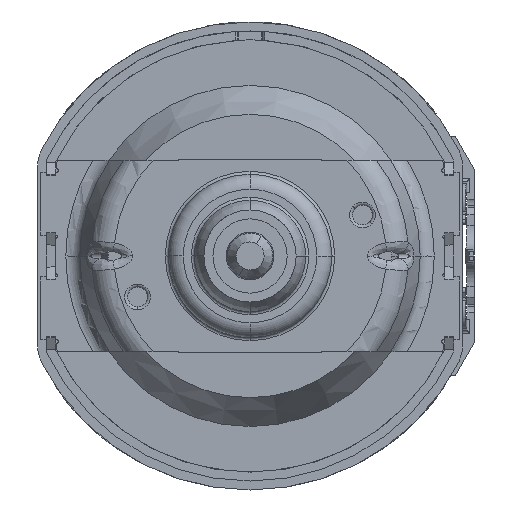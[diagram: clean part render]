
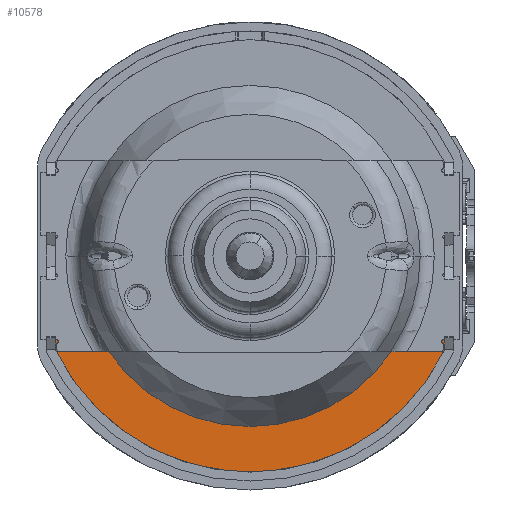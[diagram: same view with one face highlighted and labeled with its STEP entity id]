
A CAD part, front view. The second image highlights one B-rep face of the part: STEP entity #10578.
In plain terms, the highlighted planar face has unit normal (0, -1, 0).
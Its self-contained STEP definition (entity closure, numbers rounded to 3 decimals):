
#9332=AXIS2_PLACEMENT_3D('Circle Axis2P3D',#9330,#9331,$) ;
#9461=AXIS2_PLACEMENT_3D('Plane Axis2P3D',#9458,#9459,#9460) ;
#9508=AXIS2_PLACEMENT_3D('Circle Axis2P3D',#9506,#9507,$) ;
#9598=AXIS2_PLACEMENT_3D('Circle Axis2P3D',#9596,#9597,$) ;
#10363=AXIS2_PLACEMENT_3D('Circle Axis2P3D',#10361,#10362,$) ;
#10406=AXIS2_PLACEMENT_3D('Circle Axis2P3D',#10404,#10405,$) ;
#10536=AXIS2_PLACEMENT_3D('Circle Axis2P3D',#10534,#10535,$) ;
#10543=AXIS2_PLACEMENT_3D('Circle Axis2P3D',#10541,#10542,$) ;
#10550=AXIS2_PLACEMENT_3D('Circle Axis2P3D',#10548,#10549,$) ;
#9307=CARTESIAN_POINT('Vertex',(23.585,8.5,-16.)) ;
#9327=CARTESIAN_POINT('Vertex',(-23.585,8.5,-16.)) ;
#9330=CARTESIAN_POINT('Axis2P3D Location',(0.,8.5,0.)) ;
#9458=CARTESIAN_POINT('Axis2P3D Location',(0.,8.5,0.)) ;
#9506=CARTESIAN_POINT('Axis2P3D Location',(32.3,8.5,-14.3)) ;
#9510=CARTESIAN_POINT('Vertex',(32.3,8.5,-14.)) ;
#9512=CARTESIAN_POINT('Vertex',(32.3,8.5,-14.6)) ;
#9549=CARTESIAN_POINT('Line Origine',(32.3,8.5,-15.05)) ;
#9553=CARTESIAN_POINT('Vertex',(32.3,8.5,-15.5)) ;
#9593=CARTESIAN_POINT('Vertex',(31.8,8.5,-16.)) ;
#9596=CARTESIAN_POINT('Axis2P3D Location',(31.8,8.5,-15.5)) ;
#9613=CARTESIAN_POINT('Line Origine',(27.692,8.5,-16.)) ;
#9951=CARTESIAN_POINT('Vertex',(32.5,8.5,-14.)) ;
#9959=CARTESIAN_POINT('Line Origine',(32.4,8.5,-14.)) ;
#10316=CARTESIAN_POINT('Vertex',(-31.8,8.5,-16.)) ;
#10319=CARTESIAN_POINT('Line Origine',(-27.692,8.5,-16.)) ;
#10358=CARTESIAN_POINT('Vertex',(-32.3,8.5,-15.5)) ;
#10361=CARTESIAN_POINT('Axis2P3D Location',(-31.8,8.5,-15.5)) ;
#10384=CARTESIAN_POINT('Vertex',(-32.3,8.5,-14.6)) ;
#10387=CARTESIAN_POINT('Line Origine',(-32.3,8.5,-15.05)) ;
#10404=CARTESIAN_POINT('Axis2P3D Location',(-32.3,8.5,-14.3)) ;
#10408=CARTESIAN_POINT('Vertex',(-32.3,8.5,-14.)) ;
#10512=CARTESIAN_POINT('Vertex',(-32.5,8.5,-14.)) ;
#10515=CARTESIAN_POINT('Line Origine',(-32.4,8.5,-14.)) ;
#10527=CARTESIAN_POINT('Line Origine',(-32.5,8.5,-14.8)) ;
#10531=CARTESIAN_POINT('Vertex',(-32.5,8.5,-15.6)) ;
#10534=CARTESIAN_POINT('Axis2P3D Location',(-32.,8.5,-15.6)) ;
#10538=CARTESIAN_POINT('Vertex',(-32.449,8.5,-15.819)) ;
#10541=CARTESIAN_POINT('Axis2P3D Location',(0.,8.5,0.)) ;
#10545=CARTESIAN_POINT('Vertex',(32.449,8.5,-15.819)) ;
#10548=CARTESIAN_POINT('Axis2P3D Location',(32.,8.5,-15.6)) ;
#10552=CARTESIAN_POINT('Vertex',(32.5,8.5,-15.6)) ;
#10555=CARTESIAN_POINT('Line Origine',(32.5,8.5,-14.8)) ;
#9331=DIRECTION('Axis2P3D Direction',(0.,-1.,0.)) ;
#9459=DIRECTION('Axis2P3D Direction',(0.,-1.,0.)) ;
#9460=DIRECTION('Axis2P3D XDirection',(1.,0.,0.)) ;
#9507=DIRECTION('Axis2P3D Direction',(0.,-1.,0.)) ;
#9550=DIRECTION('Vector Direction',(0.,0.,-1.)) ;
#9597=DIRECTION('Axis2P3D Direction',(0.,-1.,0.)) ;
#9614=DIRECTION('Vector Direction',(1.,0.,0.)) ;
#9960=DIRECTION('Vector Direction',(1.,0.,0.)) ;
#10320=DIRECTION('Vector Direction',(1.,0.,0.)) ;
#10362=DIRECTION('Axis2P3D Direction',(0.,1.,0.)) ;
#10388=DIRECTION('Vector Direction',(0.,0.,-1.)) ;
#10405=DIRECTION('Axis2P3D Direction',(0.,1.,0.)) ;
#10516=DIRECTION('Vector Direction',(-1.,0.,0.)) ;
#10528=DIRECTION('Vector Direction',(0.,0.,-1.)) ;
#10535=DIRECTION('Axis2P3D Direction',(0.,-1.,0.)) ;
#10542=DIRECTION('Axis2P3D Direction',(0.,-1.,0.)) ;
#10549=DIRECTION('Axis2P3D Direction',(0.,-1.,0.)) ;
#10556=DIRECTION('Vector Direction',(0.,0.,-1.)) ;
#9551=VECTOR('Line Direction',#9550,1.) ;
#9615=VECTOR('Line Direction',#9614,1.) ;
#9961=VECTOR('Line Direction',#9960,1.) ;
#10321=VECTOR('Line Direction',#10320,1.) ;
#10389=VECTOR('Line Direction',#10388,1.) ;
#10517=VECTOR('Line Direction',#10516,1.) ;
#10529=VECTOR('Line Direction',#10528,1.) ;
#10557=VECTOR('Line Direction',#10556,1.) ;
#10561=ORIENTED_EDGE('',*,*,#10533,.T.) ;
#10562=ORIENTED_EDGE('',*,*,#10540,.T.) ;
#10563=ORIENTED_EDGE('',*,*,#10547,.T.) ;
#10564=ORIENTED_EDGE('',*,*,#10554,.T.) ;
#10565=ORIENTED_EDGE('',*,*,#10559,.T.) ;
#10566=ORIENTED_EDGE('',*,*,#9963,.F.) ;
#10567=ORIENTED_EDGE('',*,*,#9514,.T.) ;
#10568=ORIENTED_EDGE('',*,*,#9555,.T.) ;
#10569=ORIENTED_EDGE('',*,*,#9600,.F.) ;
#10570=ORIENTED_EDGE('',*,*,#9617,.F.) ;
#10571=ORIENTED_EDGE('',*,*,#9334,.T.) ;
#10572=ORIENTED_EDGE('',*,*,#10323,.F.) ;
#10573=ORIENTED_EDGE('',*,*,#10365,.F.) ;
#10574=ORIENTED_EDGE('',*,*,#10391,.F.) ;
#10575=ORIENTED_EDGE('',*,*,#10410,.T.) ;
#10576=ORIENTED_EDGE('',*,*,#10519,.T.) ;
#10578=ADVANCED_FACE('PartBody',(#10577),#9462,.T.) ;
#9333=CIRCLE('generated circle',#9332,28.5) ;
#9509=CIRCLE('generated circle',#9508,0.3) ;
#9599=CIRCLE('generated circle',#9598,0.5) ;
#10364=CIRCLE('generated circle',#10363,0.5) ;
#10407=CIRCLE('generated circle',#10406,0.3) ;
#10537=CIRCLE('generated circle',#10536,0.5) ;
#10544=CIRCLE('generated circle',#10543,36.1) ;
#10551=CIRCLE('generated circle',#10550,0.5) ;
#9334=EDGE_CURVE('',#9308,#9328,#9333,.F.) ;
#9514=EDGE_CURVE('',#9511,#9513,#9509,.T.) ;
#9555=EDGE_CURVE('',#9513,#9554,#9552,.T.) ;
#9600=EDGE_CURVE('',#9594,#9554,#9599,.T.) ;
#9617=EDGE_CURVE('',#9308,#9594,#9616,.T.) ;
#9963=EDGE_CURVE('',#9511,#9952,#9962,.T.) ;
#10323=EDGE_CURVE('',#10317,#9328,#10322,.T.) ;
#10365=EDGE_CURVE('',#10359,#10317,#10364,.F.) ;
#10391=EDGE_CURVE('',#10385,#10359,#10390,.T.) ;
#10410=EDGE_CURVE('',#10385,#10409,#10407,.F.) ;
#10519=EDGE_CURVE('',#10409,#10513,#10518,.T.) ;
#10533=EDGE_CURVE('',#10513,#10532,#10530,.T.) ;
#10540=EDGE_CURVE('',#10532,#10539,#10537,.T.) ;
#10547=EDGE_CURVE('',#10539,#10546,#10544,.T.) ;
#10554=EDGE_CURVE('',#10546,#10553,#10551,.T.) ;
#10559=EDGE_CURVE('',#10553,#9952,#10558,.F.) ;
#10560=EDGE_LOOP('',(#10561,#10562,#10563,#10564,#10565,#10566,#10567,#10568,#10569,#10570,#10571,#10572,#10573,#10574,#10575,#10576)) ;
#10577=FACE_OUTER_BOUND('',#10560,.T.) ;
#9552=LINE('Line',#9549,#9551) ;
#9616=LINE('Line',#9613,#9615) ;
#9962=LINE('Line',#9959,#9961) ;
#10322=LINE('Line',#10319,#10321) ;
#10390=LINE('Line',#10387,#10389) ;
#10518=LINE('Line',#10515,#10517) ;
#10530=LINE('Line',#10527,#10529) ;
#10558=LINE('Line',#10555,#10557) ;
#9462=PLANE('Plane',#9461) ;
#9308=VERTEX_POINT('',#9307) ;
#9328=VERTEX_POINT('',#9327) ;
#9511=VERTEX_POINT('',#9510) ;
#9513=VERTEX_POINT('',#9512) ;
#9554=VERTEX_POINT('',#9553) ;
#9594=VERTEX_POINT('',#9593) ;
#9952=VERTEX_POINT('',#9951) ;
#10317=VERTEX_POINT('',#10316) ;
#10359=VERTEX_POINT('',#10358) ;
#10385=VERTEX_POINT('',#10384) ;
#10409=VERTEX_POINT('',#10408) ;
#10513=VERTEX_POINT('',#10512) ;
#10532=VERTEX_POINT('',#10531) ;
#10539=VERTEX_POINT('',#10538) ;
#10546=VERTEX_POINT('',#10545) ;
#10553=VERTEX_POINT('',#10552) ;
